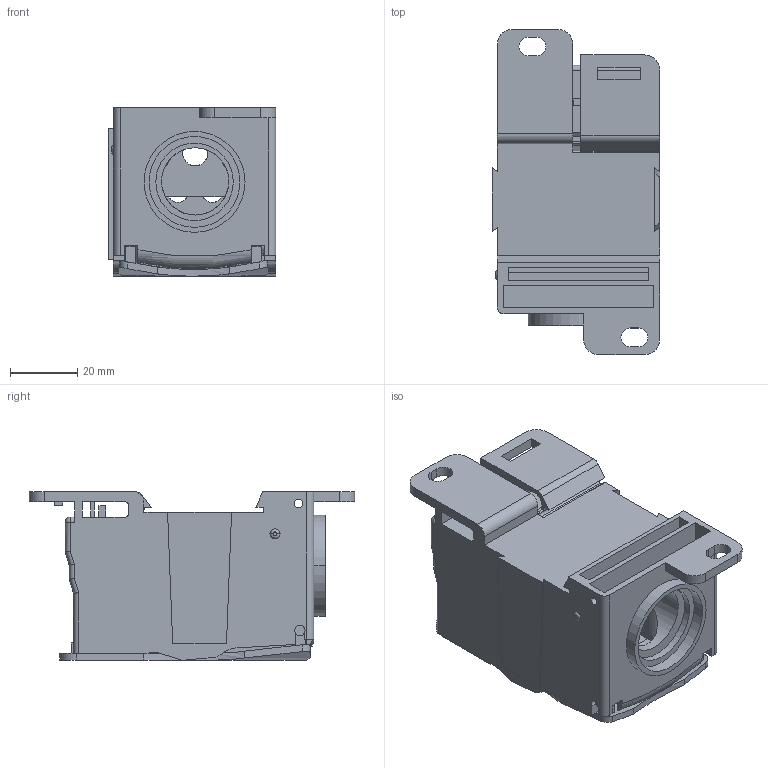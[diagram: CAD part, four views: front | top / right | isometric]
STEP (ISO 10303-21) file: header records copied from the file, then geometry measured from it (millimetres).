
FILE_DESCRIPTION((''),'2;1');
FILE_NAME('LK400A_ASM','2021-02-02T16:44:30',('Administrator'),(''),'CREO PARAMETRIC BY PTC INC, 2018050','CREO PARAMETRIC BY PTC INC, 2018050','');
FILE_SCHEMA(('CONFIG_CONTROL_DESIGN'));
Length unit declared in the file: millimetre
Products named in the file (5): ADMI1A04FFE10TND_1; ADMI1A04FFE10TND_2; ADMI1A04FFE10TND_3; ADMI1A04FFE10TND_ASM; LK400A_ASM
Assembly tree (4 placements, depth 3):
  LK400A_ASM
    ADMI1A04FFE10TND_ASM
      ADMI1A04FFE10TND_1
      ADMI1A04FFE10TND_2
      ADMI1A04FFE10TND_3
Bounding box: 49.7 x 96.6 x 50.01 mm (x, y, z)
Volume: 84065.3 mm3; surface area: 62535.2 mm2
Topology: 3 solids, 3 shells, 545 faces, 1593 edges, 1045 vertices
Faces by surface type: plane 297, cylinder 201, cone 34, bspline 10, sphere 2, torus 1
Entity records: 19564 total; most frequent: CARTESIAN_POINT 4528, ORIENTED_EDGE 3182, DIRECTION 3091, EDGE_CURVE 1591, AXIS2_PLACEMENT_3D 1048, VERTEX_POINT 1045, VECTOR 995, LINE 995
